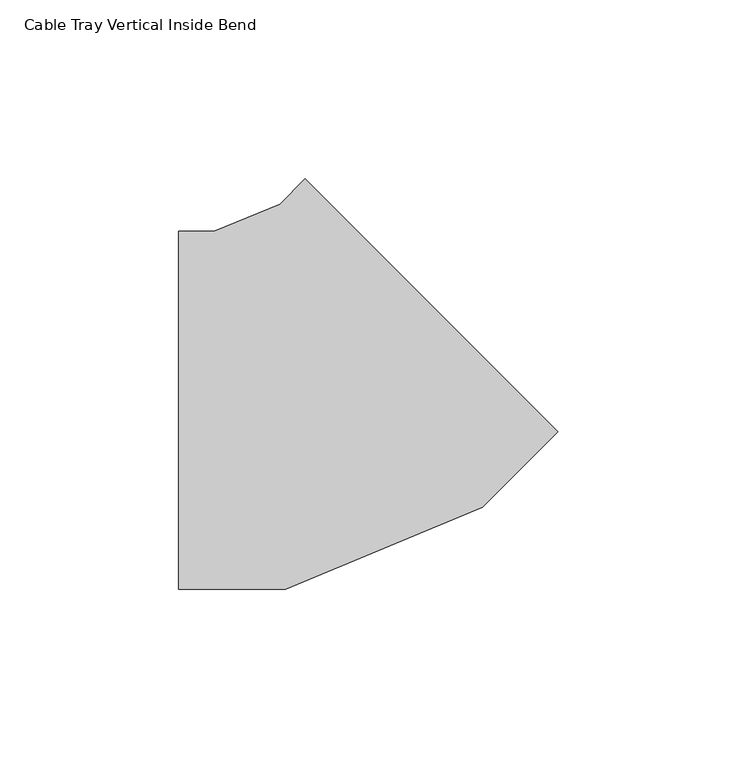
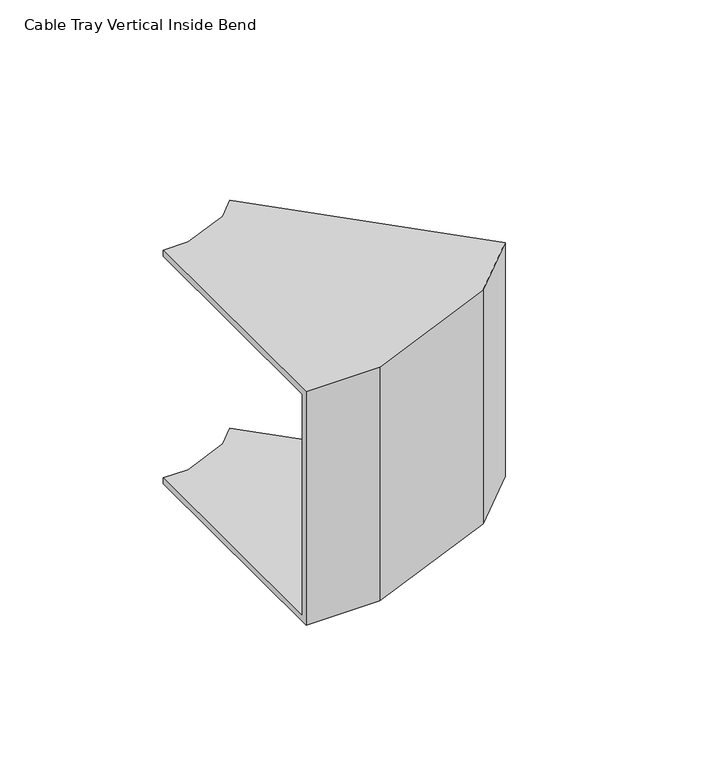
"""IFC4 building model written with IfcOpenShell, lengths in millimetres: cable carrier fitting geometry, Cable Tray Vertical Inside Bend : ELEC_ELV_TKG_N2402."""

from ifc_helpers import new_model, si_unit, origin, place, context, project, spatial, faceted_brep, source, transform, mapped, element, save


def cable_tray_vertical_inside_bend_1b7707b7(model_context):
    return source(origin(), model_context, "Body", "Brep", [
        faceted_brep([(-41.4213565, 50.0, 50.0), (-41.4213565, 50.0, 47.46), (-41.4213565, -47.46, 47.46), (-41.4213565, -47.46, -47.46), (-41.4213565, 50.0, -47.46), (-41.4213565, 50.0, -50.0), (-41.4213565, -50.0, -50.0), (-41.4213565, -50.0, 50.0), (-6.0660173, 64.6446611, 50.0), (64.6446611, -6.0660168, 50.0), (64.6446611, -6.0660168, -50.0), (-6.0660173, 64.6446611, -50.0), (-6.0660173, 64.6446611, -47.46), (62.8486099, -4.2699656, -47.46), (62.8486099, -4.2699656, 47.46), (-6.0660173, 64.6446611, 47.46), (-31.475738, 50.0, 50.0), (-31.475738, 50.0, 47.46), (-13.0986315, 57.6120468, 47.46), (42.1080241, -25.0105515, 47.46), (-12.0897386, -47.46, 47.46), (-12.0897386, -47.46, -47.46), (42.1080241, -25.0105515, -47.46), (-13.0986315, 57.6120468, -47.46), (-31.475738, 50.0, -47.46), (-31.475738, 50.0, -50.0), (-13.0986315, 57.6120468, -50.0), (43.5468185, -27.1638595, -50.0), (-11.5845012, -50.0, -50.0), (-11.5845012, -50.0, 50.0), (43.5468185, -27.1638595, 50.0), (-13.0986315, 57.6120468, 50.0)], [[[0, 1, 2, 3, 4, 5, 6, 7]], [[8, 9, 10, 11, 12, 13, 14, 15]], [[1, 0, 16, 17]], [[2, 1, 17, 18, 15, 14, 19, 20]], [[3, 2, 20, 21]], [[4, 3, 21, 22, 13, 12, 23, 24]], [[5, 4, 24, 25]], [[6, 5, 25, 26, 11, 10, 27, 28]], [[7, 6, 28, 29]], [[0, 7, 29, 30, 9, 8, 31, 16]], [[17, 16, 31, 18]], [[21, 20, 19, 22]], [[25, 24, 23, 26]], [[29, 28, 27, 30]], [[18, 31, 8, 15]], [[22, 19, 14, 13]], [[26, 23, 12, 11]], [[30, 27, 10, 9]]]),
    ])


if __name__ == "__main__":
    model = new_model("IFC4")
    model_context = context("Model", 3, world=origin())
    ifc_project = project(units=[si_unit("LENGTHUNIT", "METRE", prefix="MILLI")], contexts=[model_context])
    site = spatial("IfcSite", under=ifc_project)
    building = spatial("IfcBuilding", under=site)
    placement = place(None, origin())
    cable_tray_vertical_inside_bend_shape = cable_tray_vertical_inside_bend_1b7707b7(model_context)
    element("IfcCableCarrierFitting", 1, ObjectType="Cable Tray Vertical Inside Bend : ELEC_ELV_TKG_N2402", at=placement, inside=building, context=model_context, shape_type="MappedRepresentation", body=[
        mapped(cable_tray_vertical_inside_bend_shape, transform((0.0, 0.0, 0.0), x_axis=(1.0, 0.0, 0.0), y_axis=(0.0, 1.0, 0.0), z_axis=(0.0, 0.0, 1.0))),
    ])
    save(model, "model.ifc")
